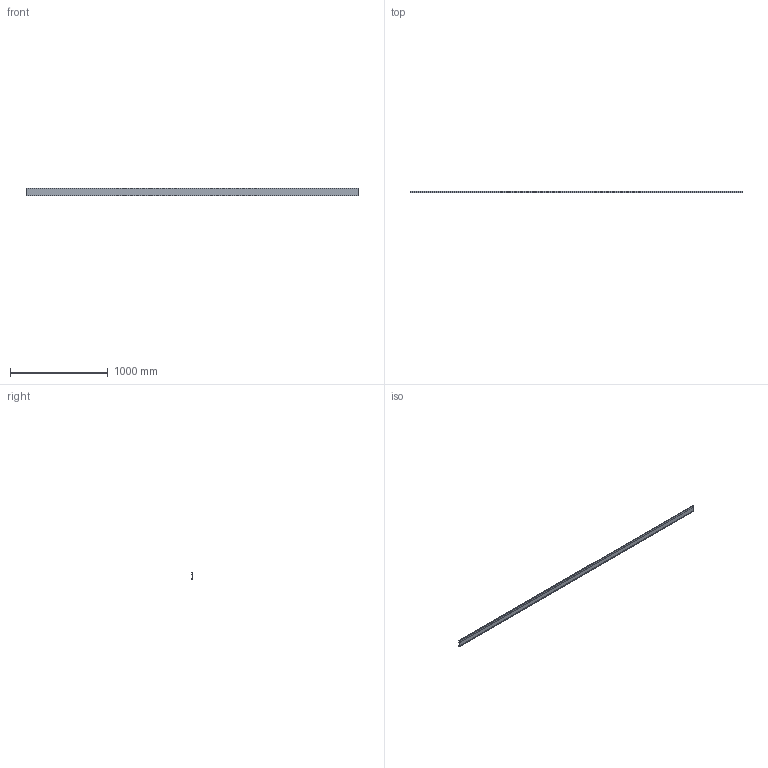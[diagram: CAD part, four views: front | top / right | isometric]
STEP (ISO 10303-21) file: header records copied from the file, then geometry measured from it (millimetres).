
FILE_DESCRIPTION(('STEP AP242'),'1');
FILE_NAME('OPO_65.084.23.stp','2026-02-23T17:30:33',(' '),(' '),'Spatial InterOp 3D',' ',' ');
FILE_SCHEMA(('AP242_MANAGED_MODEL_BASED_3D_ENGINEERING_MIM_LF {1 0 10303 442 1 1 4}'));
Length unit declared in the file: millimetre
Products named in the file (1): 1
Bounding box: 3400 x 16.27 x 72 mm (x, y, z)
Volume: 592729.2 mm3; surface area: 802625.3 mm2
Topology: 1 solids, 1 shells, 63 faces, 169 edges, 112 vertices
Faces by surface type: plane 43, cylinder 20
Entity records: 2487 total; most frequent: CARTESIAN_POINT 345, ORIENTED_EDGE 338, DIRECTION 337, EDGE_CURVE 169, LINE 129, VECTOR 129, VERTEX_POINT 112, AXIS2_PLACEMENT_3D 104
